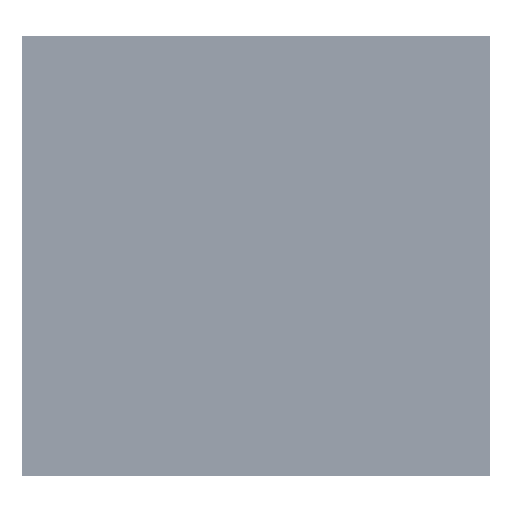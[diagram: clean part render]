
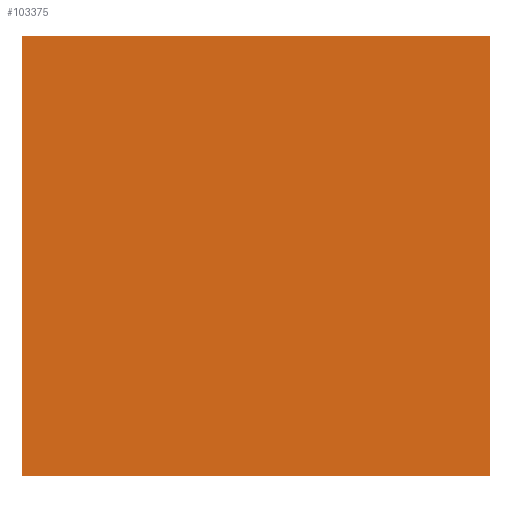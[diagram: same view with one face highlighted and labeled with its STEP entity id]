
A CAD part, front view. The second image highlights one B-rep face of the part: STEP entity #103375.
In plain terms, the highlighted planar face has unit normal (0, -1, 0) as drawn and (0, 0, 1) by its records, which use the part's own axes.
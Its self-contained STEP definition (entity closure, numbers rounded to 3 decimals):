
#12940=FACE_OUTER_BOUND('',#18998,.T.);
#18998=EDGE_LOOP('',(#71694,#71695,#71696,#71697));
#26320=LINE('',#160671,#35623);
#26325=LINE('',#160680,#35628);
#26327=LINE('',#160685,#35630);
#26330=LINE('',#160689,#35633);
#35623=VECTOR('',#124149,10.);
#35628=VECTOR('',#124156,10.);
#35630=VECTOR('',#124160,10.);
#35633=VECTOR('',#124165,10.);
#44460=VERTEX_POINT('',#160668);
#44461=VERTEX_POINT('',#160670);
#44464=VERTEX_POINT('',#160678);
#44466=VERTEX_POINT('',#160684);
#54835=EDGE_CURVE('',#44461,#44460,#26320,.T.);
#54840=EDGE_CURVE('',#44460,#44464,#26325,.T.);
#54842=EDGE_CURVE('',#44466,#44461,#26327,.T.);
#54845=EDGE_CURVE('',#44464,#44466,#26330,.T.);
#71694=ORIENTED_EDGE('',*,*,#54845,.T.);
#71695=ORIENTED_EDGE('',*,*,#54842,.T.);
#71696=ORIENTED_EDGE('',*,*,#54835,.T.);
#71697=ORIENTED_EDGE('',*,*,#54840,.T.);
#100256=PLANE('',#111022);
#103375=ADVANCED_FACE('',(#12940),#100256,.T.);
#111022=AXIS2_PLACEMENT_3D('',#160690,#124166,#124167);
#124149=DIRECTION('',(-1.,0.,0.));
#124156=DIRECTION('',(0.,-1.,0.));
#124160=DIRECTION('',(0.,1.,0.));
#124165=DIRECTION('',(1.,0.,0.));
#124166=DIRECTION('center_axis',(0.,0.,1.));
#124167=DIRECTION('ref_axis',(1.,0.,0.));
#160668=CARTESIAN_POINT('',(-15802.14,21162.916,100.));
#160670=CARTESIAN_POINT('',(14402.995,21162.916,100.));
#160671=CARTESIAN_POINT('',(14402.995,21162.916,100.));
#160678=CARTESIAN_POINT('',(-15802.14,-7250.59,100.));
#160680=CARTESIAN_POINT('',(-15802.14,21162.916,100.));
#160684=CARTESIAN_POINT('',(14402.995,-7250.59,100.));
#160685=CARTESIAN_POINT('',(14402.995,-7250.59,100.));
#160689=CARTESIAN_POINT('',(-15802.14,-7250.59,100.));
#160690=CARTESIAN_POINT('Origin',(-699.573,6956.163,100.));
